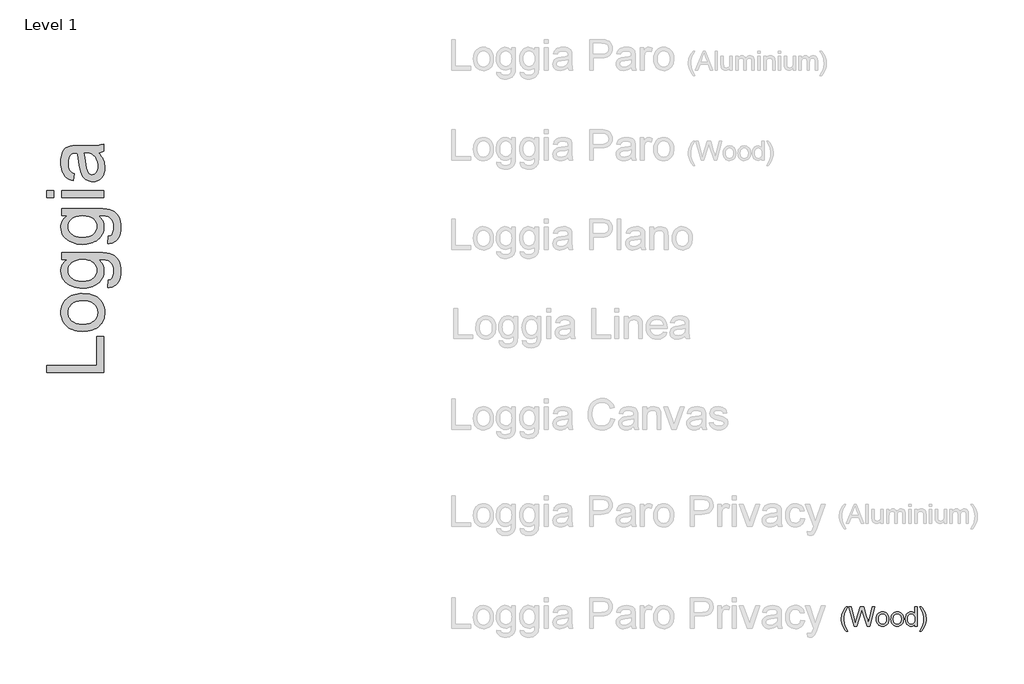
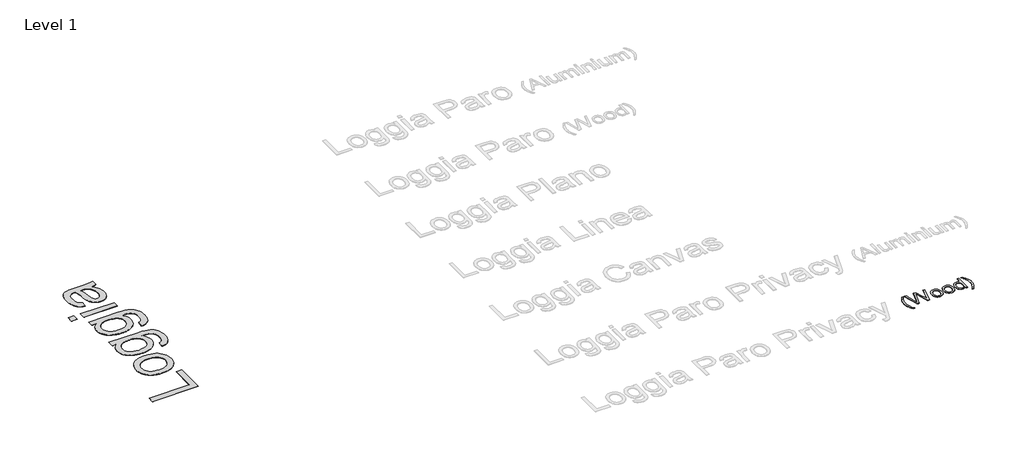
# One storey, part 9 of 80: 2 proxies.
"""IFC4 building model written with IfcOpenShell, lengths in millimetres."""

from ifc_helpers import new_model, si_unit, origin, origin_with_axes, place, context, project, spatial, polyline, outline, extrude, element, save

model = new_model("IFC4")

# Units and contexts
model_context = context("Model", 3, world=origin())
ifc_project = project(units=[si_unit("LENGTHUNIT", "METRE", prefix="MILLI")], contexts=[model_context])

# Site, building, storey
site = spatial("IfcSite", under=ifc_project)
building = spatial("IfcBuilding", under=site)
storey = spatial("IfcBuildingStorey", under=building, Name="Level 1", Elevation=0.0)

# Proxies
placement = place(None, origin())
element("IfcBuildingElementProxy", 1, Name="1500mm", ObjectType="1500mm", at=placement, inside=storey, context=model_context, shape_type="SweptSolid", body=[
    extrude(outline(polyline([(360838.2731482, -57622.6112018), (359331.428496, -57622.6112018), (359331.428496, -57434.2556203), (360649.9175667, -57434.2556203), (360649.9175667, -56680.8332942), (360838.2731482, -56680.8332942), (360838.2731482, -57622.6112018)])), origin_with_axes(), (0.0, 0.0, 1.0), 5.0),
    extrude(outline(polyline([(360284.9786275, -56539.566608), (360210.8446573, -56537.0201748), (360141.6655977, -56529.3808753), (360077.4414488, -56516.6487093), (360018.1722105, -56498.823677), (359963.8578828, -56475.9057784), (359914.4984657, -56447.8950133), (359870.0939593, -56414.7913819), (359830.6443634, -56376.5948841), (359801.9323234, -56341.6345983), (359777.0485553, -56304.8119098), (359755.9930592, -56266.1268188), (359738.7658351, -56225.5793251), (359725.3668831, -56183.1694289), (359715.7962031, -56138.89713), (359710.0537951, -56092.7624286), (359708.1396591, -56044.7653245), (359710.4705364, -55991.563265), (359717.4631684, -55940.8501572), (359729.117555, -55892.6260009), (359745.4336963, -55846.8907963), (359766.4115923, -55803.6445434), (359792.0512429, -55762.887242), (359822.3526482, -55724.6188923), (359857.3158081, -55688.8394942), (359896.3888997, -55656.4630045), (359939.0201, -55628.4033801), (359985.2094089, -55604.6606211), (360034.9568265, -55585.2347273), (360088.2623528, -55570.1256988), (360145.1259878, -55559.3335356), (360205.5477314, -55552.8582376), (360269.5275837, -55550.699805), (360370.350243, -55554.5165807), (360459.8145457, -55565.9669078), (360537.9204918, -55585.0507863), (360604.6680813, -55611.7682162), (360662.3220877, -55645.7858044), (360713.1472846, -55686.7701579), (360757.143672, -55734.7212768), (360794.3112498, -55789.6391608), (360823.8452762, -55849.3854961), (360844.9410094, -55911.8219685), (360857.5984493, -55976.948578), (360861.8175959, -56044.7653245), (360859.4953408, -56098.8066148), (360852.5285755, -56150.1980051), (360840.9173001, -56198.9394953), (360824.6615144, -56245.0310856), (360803.7612186, -56288.4727759), (360778.2164125, -56329.2645662), (360748.0270963, -56367.4064565), (360713.1932699, -56402.8984468), (360673.9908448, -56434.9300471), (360630.6957325, -56462.6907673), (360583.307933, -56486.1806075), (360531.8274463, -56505.3995677), (360476.2542724, -56520.3476478), (360416.5884113, -56531.0248479), (360352.829863, -56537.431168), (360284.9786275, -56539.566608)]), holes=[polyline([(360284.6107455, -56351.2110265), (360375.9719397, -56345.7617744), (360417.056886, -56338.9502094), (360455.078065, -56329.4140183), (360490.0354768, -56317.1532011), (360521.9291213, -56302.167758), (360550.7589986, -56284.4576888), (360576.5251087, -56264.0229936), (360599.2446959, -56241.5247104), (360618.9350049, -56217.623877), (360635.5960356, -56192.3204935), (360649.227788, -56165.6145599), (360659.830262, -56137.5060762), (360667.4034578, -56107.9950424), (360673.4620144, -56044.7653245), (360667.3689688, -55981.8575033), (360659.7526619, -55952.472929), (360649.0898322, -55924.4679121), (360635.3804797, -55897.8424527), (360618.6246045, -55872.5965508), (360598.8222065, -55848.7302063), (360575.9732857, -55826.2434194), (360550.0031161, -55805.8087242), (360520.8369716, -55788.098655), (360488.4748524, -55773.1132118), (360452.9167583, -55760.8523947), (360414.1626894, -55751.3162036), (360372.2126456, -55744.5046386), (360278.7246336, -55739.0553865), (360190.26051, -55744.5391275), (360150.3136987, -55751.3938037), (360113.223721, -55760.9903505), (360078.9905769, -55773.3287677), (360047.6142664, -55788.4090554), (360019.0947896, -55806.2312136), (359993.4321463, -55826.7952424), (359951.0222501, -55873.3208184), (359934.3612194, -55898.5753426), (359920.729467, -55925.1576908), (359910.1269929, -55953.0678631), (359902.5537972, -55982.3058595), (359896.4952406, -56044.7653245), (359902.5308046, -56107.9950424), (359910.0752595, -56137.5060762), (359920.6374965, -56165.6145599), (359934.2175155, -56192.3204935), (359950.8153164, -56217.623877), (359970.4308994, -56241.5247104), (359993.0642643, -56264.0229936), (360018.744152, -56284.4576888), (360047.4993033, -56302.167758), (360079.3297181, -56317.1532011), (360114.2353965, -56329.4140183), (360152.2163384, -56338.9502094), (360193.2725439, -56345.7617744), (360284.6107455, -56351.2110265)])]), origin_with_axes(), (0.0, 0.0, 1.0), 5.0),
    extrude(outline(polyline([(360932.450939, -55385.8886711), (360955.9953867, -55197.5330896), (360987.7252088, -55189.5776415), (361014.8565059, -55176.7477569), (361037.3892781, -55159.0434359), (361055.3235254, -55136.4646784), (361073.6716399, -55099.9293978), (361086.777436, -55057.2780789), (361094.6409136, -55008.510722), (361097.2620728, -54953.6273268), (361094.2960243, -54894.8121928), (361085.3978785, -54843.0787873), (361070.5676356, -54798.4271101), (361049.8052955, -54760.8571613), (361023.6856738, -54729.5871917), (360992.7835862, -54703.8354521), (360957.0990327, -54683.6019423), (360916.6320132, -54668.8866625), (360883.3157, -54662.8396022), (360835.6060038, -54658.6779372), (360697.0064621, -54656.0107927), (360730.1158417, -54686.4415315), (360758.8106373, -54718.6886876), (360783.090849, -54752.7522611), (360802.9564767, -54788.632252), (360818.4075205, -54826.3286602), (360829.4439803, -54865.8414857), (360836.0658563, -54907.1707286), (360838.2731482, -54950.3163888), (360835.7037224, -55003.4954557), (360827.995445, -55053.5877627), (360815.1483159, -55100.5933098), (360797.1623353, -55144.5120971), (360774.037503, -55185.3441244), (360745.7738191, -55223.089392), (360712.3712835, -55257.7478996), (360673.8298964, -55289.3196474), (360631.6959116, -55317.4712423), (360587.5155833, -55341.8692912), (360541.2889113, -55362.5137941), (360493.0158958, -55379.404751), (360442.6965366, -55392.5421619), (360390.3308339, -55401.9260269), (360335.9187875, -55407.5563458), (360279.4603976, -55409.4331188), (360201.8947781, -55406.0646993), (360127.3871778, -55395.9594408), (360055.9375966, -55379.1173432), (359987.5460344, -55355.5384065), (359924.4887612, -55325.5790166), (359869.0420467, -55289.5955589), (359821.205891, -55247.5880336), (359780.9802941, -55199.5564406), (359749.1125163, -55146.2710328), (359726.3498178, -55088.5020633), (359712.6921987, -55026.2495319), (359708.1396591, -54959.5134387), (359710.714833, -54914.4536425), (359718.4403549, -54871.4286935), (359731.3162247, -54830.4385918), (359749.3424425, -54791.4833374), (359772.5190082, -54754.5629303), (359800.8459218, -54719.6773705), (359834.3231834, -54686.826658), (359872.9507929, -54656.0107927), (359731.6841067, -54656.0107927), (359731.6841067, -54467.6552112), (360687.0736482, -54467.6552112), (360806.7847487, -54470.8741786), (360907.6648896, -54480.531081), (360989.7140708, -54496.6259183), (361052.9322924, -54519.1586905), (361103.9184377, -54548.6697243), (361149.2713899, -54585.6993464), (361188.9911491, -54630.2475567), (361223.0777152, -54682.3143554), (361250.4389386, -54741.3709119), (361269.9826696, -54806.888396), (361281.7089082, -54878.8668076), (361285.6176544, -54957.3061468), (361280.1109208, -55049.587046), (361263.5907199, -55132.5559322), (361251.2005693, -55170.5483704), (361236.0570518, -55206.2128054), (361218.1601676, -55239.5492372), (361197.5099165, -55270.5576656), (361174.0948023, -55298.4735861), (361147.9033287, -55322.5324938), (361118.9354957, -55342.7343887), (361087.1913032, -55359.0792707), (361052.6707513, -55371.56714), (361015.37384, -55380.1979965), (360975.3005692, -55384.9718402), (360932.450939, -55385.8886711)]), holes=[polyline([(360266.5845277, -55221.0775373), (360359.7161541, -55216.0536488), (360439.3511097, -55200.9819833), (360474.107336, -55189.6782342), (360505.4893947, -55175.8625408), (360533.4972856, -55159.5349032), (360558.1310089, -55140.6953214), (360598.2876279, -55097.9405357), (360626.9709273, -55050.0583948), (360644.1809068, -54997.0488985), (360649.9175667, -54938.912047), (360644.2153958, -54881.3500111), (360627.108883, -54828.5934337), (360598.5980284, -54780.6423149), (360558.6828319, -54737.4966546), (360534.24742, -54718.3984057), (360506.5585517, -54701.84659), (360475.616227, -54687.8412075), (360441.4204459, -54676.3822582), (360363.2685146, -54661.1036591), (360272.1027577, -54656.0107927), (360184.7422801, -54661.2531111), (360108.809137, -54676.9800664), (360075.1278159, -54688.7752829), (360044.3033285, -54703.1916586), (360016.3356746, -54720.2291935), (359991.2248543, -54739.8878876), (359949.7806483, -54783.9647492), (359920.177644, -54832.3182389), (359902.4158414, -54884.9483568), (359896.4952406, -54941.855103), (359902.3238709, -54997.8076552), (359919.809762, -55049.4146013), (359948.9529138, -55096.6759414), (359989.7533264, -55139.5916754), (360014.4790201, -55158.6899243), (360042.0270586, -55175.24174), (360072.3974418, -55189.2471225), (360105.5901696, -55200.7060718), (360180.4426593, -55215.9846709), (360266.5845277, -55221.0775373)])]), origin_with_axes(), (0.0, 0.0, 1.0), 5.0),
    extrude(outline(polyline([(360932.450939, -54232.2107343), (360955.9953867, -54043.8551527), (360987.7252088, -54035.8997046), (361014.8565059, -54023.06982), (361037.3892781, -54005.365499), (361055.3235254, -53982.7867415), (361073.6716399, -53946.2514609), (361086.777436, -53903.6001421), (361094.6409136, -53854.8327851), (361097.2620728, -53799.9493899), (361094.2960243, -53741.134256), (361085.3978785, -53689.4008504), (361070.5676356, -53644.7491732), (361049.8052955, -53607.1792245), (361023.6856738, -53575.9092549), (360992.7835862, -53550.1575152), (360957.0990327, -53529.9240055), (360916.6320132, -53515.2087257), (360883.3157, -53509.1616654), (360835.6060038, -53505.0000003), (360697.0064621, -53502.3328558), (360730.1158417, -53532.7635946), (360758.8106373, -53565.0107508), (360783.090849, -53599.0743243), (360802.9564767, -53634.9543151), (360818.4075205, -53672.6507233), (360829.4439803, -53712.1635488), (360836.0658563, -53753.4927917), (360838.2731482, -53796.638452), (360835.7037224, -53849.8175188), (360827.995445, -53899.9098258), (360815.1483159, -53946.9153729), (360797.1623353, -53990.8341602), (360774.037503, -54031.6661876), (360745.7738191, -54069.4114551), (360712.3712835, -54104.0699627), (360673.8298964, -54135.6417105), (360631.6959116, -54163.7933054), (360587.5155833, -54188.1913543), (360541.2889113, -54208.8358572), (360493.0158958, -54225.7268141), (360442.6965366, -54238.864225), (360390.3308339, -54248.24809), (360335.9187875, -54253.878409), (360279.4603976, -54255.755182), (360201.8947781, -54252.3867624), (360127.3871778, -54242.2815039), (360055.9375966, -54225.4394063), (359987.5460344, -54201.8604697), (359924.4887612, -54171.9010797), (359869.0420467, -54135.917622), (359821.205891, -54093.9100967), (359780.9802941, -54045.8785037), (359749.1125163, -53992.593096), (359726.3498178, -53934.8241264), (359712.6921987, -53872.571595), (359708.1396591, -53805.8355019), (359710.714833, -53760.7757056), (359718.4403549, -53717.7507566), (359731.3162247, -53676.760655), (359749.3424425, -53637.8054006), (359772.5190082, -53600.8849934), (359800.8459218, -53565.9994336), (359834.3231834, -53533.1487211), (359872.9507929, -53502.3328558), (359731.6841067, -53502.3328558), (359731.6841067, -53313.9772743), (360687.0736482, -53313.9772743), (360806.7847487, -53317.1962418), (360907.6648896, -53326.8531441), (360989.7140708, -53342.9479814), (361052.9322924, -53365.4807536), (361103.9184377, -53394.9917874), (361149.2713899, -53432.0214095), (361188.9911491, -53476.5696199), (361223.0777152, -53528.6364185), (361250.4389386, -53587.692975), (361269.9826696, -53653.2104591), (361281.7089082, -53725.1888707), (361285.6176544, -53803.6282099), (361280.1109208, -53895.9091091), (361263.5907199, -53978.8779953), (361251.2005693, -54016.8704336), (361236.0570518, -54052.5348686), (361218.1601676, -54085.8713003), (361197.5099165, -54116.8797288), (361174.0948023, -54144.7956492), (361147.9033287, -54168.8545569), (361118.9354957, -54189.0564518), (361087.1913032, -54205.4013339), (361052.6707513, -54217.8892032), (361015.37384, -54226.5200596), (360975.3005692, -54231.2939034), (360932.450939, -54232.2107343)]), holes=[polyline([(360266.5845277, -54067.3996004), (360359.7161541, -54062.3757119), (360439.3511097, -54047.3040464), (360474.107336, -54036.0002973), (360505.4893947, -54022.184604), (360533.4972856, -54005.8569663), (360558.1310089, -53987.0173845), (360598.2876279, -53944.2625989), (360626.9709273, -53896.3804579), (360644.1809068, -53843.3709617), (360649.9175667, -53785.2341101), (360644.2153958, -53727.6720742), (360627.108883, -53674.9154968), (360598.5980284, -53626.964378), (360558.6828319, -53583.8187178), (360534.24742, -53564.7204689), (360506.5585517, -53548.1686532), (360475.616227, -53534.1632706), (360441.4204459, -53522.7043213), (360363.2685146, -53507.4257222), (360272.1027577, -53502.3328558), (360184.7422801, -53507.5751743), (360108.809137, -53523.3021296), (360075.1278159, -53535.097346), (360044.3033285, -53549.5137217), (360016.3356746, -53566.5512566), (359991.2248543, -53586.2099507), (359949.7806483, -53630.2868123), (359920.177644, -53678.640302), (359902.4158414, -53731.27042), (359896.4952406, -53788.1771661), (359902.3238709, -53844.1297183), (359919.809762, -53895.7366644), (359948.9529138, -53942.9980045), (359989.7533264, -53985.9137385), (360014.4790201, -54005.0119874), (360042.0270586, -54021.5638031), (360072.3974418, -54035.5691856), (360105.5901696, -54047.0281349), (360180.4426593, -54062.3067341), (360266.5845277, -54067.3996004)])]), origin_with_axes(), (0.0, 0.0, 1.0), 5.0),
    extrude(outline(polyline([(360838.2731482, -53031.443902), (359731.6841067, -53031.443902), (359731.6841067, -52843.0883205), (360838.2731482, -52843.0883205), (360838.2731482, -53031.443902)])), origin_with_axes(), (0.0, 0.0, 1.0), 5.0),
    extrude(outline(polyline([(359519.7840775, -53031.443902), (359331.428496, -53031.443902), (359331.428496, -52843.0883205), (359519.7840775, -52843.0883205), (359519.7840775, -53031.443902)])), origin_with_axes(), (0.0, 0.0, 1.0), 5.0),
    extrude(outline(polyline([(360697.0064621, -51854.2215174), (360738.9220169, -51898.8846909), (360774.1697106, -51944.2146505), (360802.7495431, -51990.2113962), (360824.6615144, -52036.874928), (360840.9173001, -52084.7340764), (360852.5285755, -52134.3176715), (360859.4953408, -52185.6257135), (360861.8175959, -52238.6582024), (360856.2303881, -52322.523801), (360849.2463784, -52360.5852171), (360839.4687647, -52396.0657111), (360826.8975472, -52428.965283), (360811.5327257, -52459.2839327), (360793.3743004, -52487.0216603), (360772.4222711, -52512.1784658), (360749.2974388, -52534.5531637), (360724.6206043, -52553.9445686), (360698.3917677, -52570.3526804), (360670.6109289, -52583.7774991), (360641.278088, -52594.2190248), (360610.3932448, -52601.6772575), (360543.9675521, -52607.6438436), (360504.029363, -52605.3905663), (360465.8845986, -52598.6307347), (360429.533259, -52587.3643486), (360394.975344, -52571.591408), (360362.9696105, -52552.1511439), (360334.2748148, -52529.8827868), (360308.8909572, -52504.786337), (360286.8180375, -52476.8617943), (360250.9495429, -52414.5517813), (360225.0138623, -52344.976099), (360210.574494, -52277.1938414), (360196.6869486, -52182.0043751), (360182.4315213, -52078.3996083), (360166.888507, -51989.4181507), (360150.0579058, -51915.0600024), (360131.9397175, -51855.3251634), (360090.00117, -51854.2215174), (360044.3378174, -51857.4634775), (360005.9401341, -51867.1893578), (359974.8081203, -51883.3991582), (359950.9417759, -51906.0928788), (359927.1214167, -51945.3182965), (359910.1068744, -51993.0969706), (359899.898149, -52049.4289011), (359896.4952406, -52114.314088), (359898.7600141, -52174.6467352), (359905.5543347, -52226.5180966), (359916.8782024, -52269.928172), (359932.7316171, -52304.8769615), (359954.3561806, -52333.5947498), (359982.9934947, -52358.3118213), (360018.6435593, -52379.0281762), (360061.3063744, -52395.7438143), (360037.7619267, -52584.0993959), (359983.4993324, -52569.7634944), (359934.7549681, -52551.4038835), (359891.5288336, -52529.0205634), (359853.8209291, -52502.6135339), (359820.8724979, -52471.0446602), (359791.9247835, -52433.1758073), (359766.9777857, -52389.0069753), (359746.0315046, -52338.5381641), (359729.4538221, -52282.7925455), (359717.6126204, -52222.7932914), (359710.5078994, -52158.5404016), (359708.1396591, -52090.0338763), (359710.2319879, -52023.0678569), (359716.5089744, -51962.7007208), (359726.9706187, -51908.9324679), (359741.6169206, -51861.7630983), (359759.4247084, -51820.8017374), (359779.3708104, -51785.6575106), (359801.4552264, -51756.3304178), (359825.6779565, -51732.820459), (359852.636809, -51713.7595732), (359882.929592, -51697.779699), (359916.5563056, -51684.8808365), (359953.5169498, -51675.0629858), (360018.632063, -51668.1651984), (360118.3280837, -51665.8659359), (360352.6689146, -51665.8659359), (360556.7974367, -51663.4747029), (360679.8999493, -51656.301004), (360760.788003, -51642.1375472), (360838.2731482, -51618.7770405), (360838.2731482, -51807.1326221), (360806.8192376, -51823.8712528), (360772.7901531, -51837.2989457), (360736.1858946, -51847.4157005), (360697.0064621, -51854.2215174)]), holes=[polyline([(360320.295299, -51854.2215174), (360336.5970699, -51911.1512562), (360351.6572391, -51980.7729238), (360378.0527723, -52158.0920455), (360392.4921406, -52255.8107004), (360408.5869779, -52320.1440643), (360429.4642811, -52362.312538), (360442.8689813, -52379.2925914), (360458.2510472, -52393.5365224), (360475.0586559, -52404.8029085), (360492.7399843, -52412.8503271), (360511.2950324, -52417.6787783), (360530.7238003, -52419.288262), (360559.9934115, -52415.7818868), (360586.733834, -52405.262761), (360610.9450678, -52387.7308846), (360632.6271129, -52363.1862578), (360650.4923823, -52331.8588066), (360663.253289, -52293.9784574), (360670.9098331, -52249.5452102), (360673.4620144, -52198.5590649), (360670.6454179, -52146.5037626), (360662.1956283, -52097.3915163), (360648.1126457, -52051.2223259), (360628.39647, -52007.9961914), (360604.6795776, -51969.0006999), (360578.5944449, -51935.5234384), (360550.1410718, -51907.5644067), (360519.3194584, -51885.123605), (360491.7283088, -51872.0867868), (360458.2510472, -51862.7747738), (360418.8876737, -51857.187566), (360373.6381883, -51855.3251634), (360320.295299, -51854.2215174)])]), origin_with_axes(), (0.0, 0.0, 1.0), 5.0),
])
element("IfcBuildingElementProxy", 2, Name="500mm Arial", ObjectType="500mm Arial", at=placement, inside=storey, context=model_context, shape_type="SweptSolid", body=[
    extrude(outline(polyline([(380325.7477169, -64426.6238855), (380300.4021803, -64393.8287384), (380277.0953231, -64358.3511185), (380236.5976468, -64279.3484601), (380220.6637579, -64236.7814475), (380209.2824086, -64193.4480142), (380202.4535991, -64149.34816), (380200.1773292, -64104.481885), (380201.8787835, -64065.0495337), (380206.9831462, -64026.4602452), (380215.4904173, -63988.7140197), (380227.4005969, -63951.810857), (380245.5034567, -63909.4890992), (380267.92893, -63867.2593118), (380294.6770168, -63825.1214949), (380325.7477169, -63783.0756486), (380372.8366123, -63783.0756486), (380314.0981204, -63882.5264146), (380294.0485517, -63929.7379373), (380278.7814489, -63978.9114973), (380266.9172545, -64041.727348), (380262.9625231, -64104.849767), (380264.6793057, -64145.0983565), (380269.8296537, -64185.3392819), (380278.4135669, -64225.572543), (380290.4310454, -64265.7981399), (380324.7666983, -64346.2263411), (380372.8366123, -64426.6238855), (380325.7477169, -64426.6238855)])), origin_with_axes(), (0.0, 0.0, 1.0), 5.0),
    extrude(outline(polyline([(380533.3557895, -64285.3571993), (380396.38106, -63783.0756486), (380461.1282912, -63783.0756486), (380540.5908021, -64113.1884256), (380565.1162685, -64215.0917382), (380591.3585175, -64124.9606494), (380690.9319108, -63783.0756486), (380784.2513103, -63783.0756486), (380856.601436, -64030.905486), (380887.5954941, -64122.8759848), (380910.4348346, -64215.0917382), (380934.224537, -64116.1314815), (381014.4228119, -63783.0756486), (381079.1700431, -63783.0756486), (380942.0726862, -64285.3571993), (380874.9955357, -64285.3571993), (380754.575496, -63897.8548311), (380737.7755515, -63843.7761778), (380718.8909424, -63908.8912909), (380609.1394806, -64285.3571993), (380533.3557895, -64285.3571993)])), origin_with_axes(), (0.0, 0.0, 1.0), 5.0),
    extrude(outline(polyline([(381118.4107892, -64100.9256924), (381121.8060335, -64053.1546825), (381131.9917662, -64011.9902201), (381148.9679874, -63977.4323051), (381172.7346972, -63949.4809377), (381196.6623553, -63931.6156683), (381223.0732168, -63918.8547616), (381251.9672819, -63911.1982176), (381283.3445504, -63908.6460362), (381317.9829395, -63911.7538727), (381349.3027264, -63921.077382), (381377.3039112, -63936.6165642), (381401.9864938, -63958.3714193), (381422.1318652, -63985.6061832), (381436.5214161, -64017.5850921), (381445.1551467, -64054.3081458), (381448.0330569, -64095.7753445), (381442.9440226, -64159.2043318), (381436.5827298, -64185.2396472), (381427.6769198, -64207.4888437), (381416.3377237, -64226.7068458), (381402.6762726, -64243.6485781), (381386.6925663, -64258.3140406), (381368.3866049, -64270.7032332), (381327.6590024, -64287.5798197), (381283.3445504, -64293.2053485), (381248.2003235, -64290.1090084), (381216.5892967, -64280.819988), (381188.5114698, -64265.3382874), (381163.9668429, -64243.6639065), (381144.0360694, -64216.1647274), (381129.7998026, -64183.208632), (381121.2580426, -64144.7956203), (381118.4107892, -64100.9256924)]), holes=[polyline([(381181.1959831, -64100.8030651), (381183.0124004, -64131.2567965), (381188.4616525, -64157.6255049), (381197.5437392, -64179.9091903), (381210.2586607, -64198.1078528), (381225.7250329, -64212.2444849), (381243.0614719, -64222.3420792), (381262.2679777, -64228.4006358), (381283.3445504, -64230.4201547), (381304.3138241, -64228.3891395), (381323.4436879, -64222.296094), (381340.7341416, -64212.1410181), (381356.1851854, -64197.9239118), (381368.9001069, -64179.5451404), (381377.9821936, -64156.9050693), (381383.4314457, -64130.0036984), (381385.247863, -64098.8410278), (381383.4199494, -64069.3529866), (381377.9362084, -64043.6740569), (381368.7966401, -64021.8042387), (381356.0012444, -64003.743532), (381340.4927191, -63989.6068999), (381323.2137616, -63979.5093056), (381304.164372, -63973.450749), (381283.3445504, -63971.4312301), (381262.2679777, -63973.4430848), (381243.0614719, -63979.4786487), (381225.7250329, -63989.537922), (381210.2586607, -64003.6209047), (381197.5437392, -64021.7659177), (381188.4616525, -64044.0112821), (381183.0124004, -64070.3569979), (381181.1959831, -64100.8030651)])]), origin_with_axes(), (0.0, 0.0, 1.0), 5.0),
    extrude(outline(polyline([(381502.9701015, -64100.9256924), (381506.3653457, -64053.1546825), (381516.5510785, -64011.9902201), (381533.5272997, -63977.4323051), (381557.2940095, -63949.4809377), (381581.2216676, -63931.6156683), (381607.6325291, -63918.8547616), (381636.5265942, -63911.1982176), (381667.9038627, -63908.6460362), (381702.5422518, -63911.7538727), (381733.8620387, -63921.077382), (381761.8632235, -63936.6165642), (381786.5458061, -63958.3714193), (381806.6911775, -63985.6061832), (381821.0807284, -64017.5850921), (381829.714459, -64054.3081458), (381832.5923692, -64095.7753445), (381827.5033349, -64159.2043318), (381821.1420421, -64185.2396472), (381812.2362321, -64207.4888437), (381800.897036, -64226.7068458), (381787.2355849, -64243.6485781), (381771.2518786, -64258.3140406), (381752.9459172, -64270.7032332), (381712.2183147, -64287.5798197), (381667.9038627, -64293.2053485), (381632.7596358, -64290.1090084), (381601.148609, -64280.819988), (381573.0707821, -64265.3382874), (381548.5261552, -64243.6639065), (381528.5953817, -64216.1647274), (381514.3591149, -64183.208632), (381505.8173549, -64144.7956203), (381502.9701015, -64100.9256924)]), holes=[polyline([(381565.7552953, -64100.8030651), (381567.5717127, -64131.2567965), (381573.0209647, -64157.6255049), (381582.1030515, -64179.9091903), (381594.817973, -64198.1078528), (381610.2843452, -64212.2444849), (381627.6207842, -64222.3420792), (381646.82729, -64228.4006358), (381667.9038627, -64230.4201547), (381688.8731364, -64228.3891395), (381708.0030001, -64222.296094), (381725.2934539, -64212.1410181), (381740.7444977, -64197.9239118), (381753.4594192, -64179.5451404), (381762.5415059, -64156.9050693), (381767.990758, -64130.0036984), (381769.8071753, -64098.8410278), (381767.9792617, -64069.3529866), (381762.4955207, -64043.6740569), (381753.3559524, -64021.8042387), (381740.5605567, -64003.743532), (381725.0520314, -63989.6068999), (381707.7730739, -63979.5093056), (381688.7236843, -63973.450749), (381667.9038627, -63971.4312301), (381646.82729, -63973.4430848), (381627.6207842, -63979.4786487), (381610.2843452, -63989.537922), (381594.817973, -64003.6209047), (381582.1030515, -64021.7659177), (381573.0209647, -64044.0112821), (381567.5717127, -64070.3569979), (381565.7552953, -64100.8030651)])]), origin_with_axes(), (0.0, 0.0, 1.0), 5.0),
    extrude(outline(polyline([(382130.8220399, -64285.3571993), (382130.8220399, -64226.1281981), (382112.0370656, -64255.4744514), (382089.2820313, -64276.4360609), (382062.5569372, -64289.0130266), (382031.8617832, -64293.2053485), (381991.2721364, -64287.1352956), (381954.1160549, -64268.9251369), (381922.6621443, -64239.8471308), (381899.1790103, -64201.1735361), (381884.555701, -64154.4678511), (381879.6812646, -64101.2935744), (381884.1724906, -64048.7784196), (381897.6461687, -64001.352299), (381907.7475951, -63980.2220769), (381920.0869704, -63961.7130141), (381934.6642944, -63945.8251104), (381951.4795673, -63932.5583659), (381989.4480549, -63914.6241187), (382031.6165286, -63908.6460362), (382062.3346752, -63912.9226644), (382089.4966291, -63925.752549), (382112.5199107, -63945.4189073), (382130.8220399, -63970.2049568), (382130.8220399, -63783.0756486), (382193.6072338, -63783.0756486), (382193.6072338, -64285.3571993), (382130.8220399, -64285.3571993)]), holes=[polyline([(381942.4664584, -64101.0483197), (381944.2368905, -64131.4943869), (381949.5481868, -64157.8401027), (381958.4003473, -64180.0854671), (381970.793372, -64198.2304801), (381985.5929581, -64212.3134627), (382001.6648028, -64222.3727361), (382019.008906, -64228.4083), (382037.6252678, -64230.4201547), (382056.329768, -64228.5002705), (382073.5704044, -64222.740618), (382089.3471771, -64213.1411972), (382103.660086, -64199.7020081), (382115.5434408, -64182.3157517), (382124.0315514, -64160.8751292), (382129.1244178, -64135.3801405), (382130.8220399, -64105.8307857), (382129.093761, -64073.4341775), (382123.9089241, -64045.6514226), (382115.2675293, -64022.4825211), (382103.1695766, -64003.927473), (382088.5424352, -63989.7103667), (382072.3134743, -63979.5552908), (382054.4826938, -63973.4622453), (382035.0500939, -63971.4312301), (382016.0658501, -63973.3817711), (381998.7217468, -63979.2333941), (381983.0177842, -63988.986099), (381968.9539621, -64002.639886), (381957.3656792, -64020.4936591), (381949.0883343, -64042.8463224), (381944.1219274, -64069.6978759), (381942.4664584, -64101.0483197)])]), origin_with_axes(), (0.0, 0.0, 1.0), 5.0),
    extrude(outline(polyline([(382303.481323, -64426.6238855), (382256.3924276, -64426.6238855), (382304.4623417, -64346.2263411), (382338.7979945, -64265.7981399), (382350.815473, -64225.572543), (382359.3993863, -64185.3392819), (382364.5497342, -64145.0983565), (382366.2665168, -64104.849767), (382362.3117854, -64042.1872005), (382350.4475911, -63980.0151433), (382335.4563998, -63930.7496128), (382315.4988015, -63883.5074332), (382256.3924276, -63783.0756486), (382303.481323, -63783.0756486), (382334.5520232, -63825.1214949), (382361.3001099, -63867.2593118), (382383.7255832, -63909.4890992), (382401.828443, -63951.810857), (382413.7386226, -63988.7140197), (382422.2458938, -64026.4602452), (382427.3502565, -64065.0495337), (382429.0517107, -64104.481885), (382426.7639445, -64149.34816), (382419.9006461, -64193.4480142), (382408.4618153, -64236.7814475), (382392.4474522, -64279.3484601), (382351.9037906, -64358.3511185), (382303.481323, -64426.6238855)])), origin_with_axes(), (0.0, 0.0, 1.0), 5.0),
])

save(model, "model.ifc")
